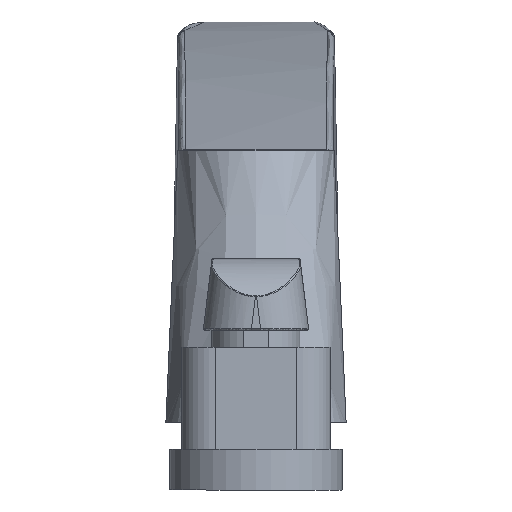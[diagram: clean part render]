
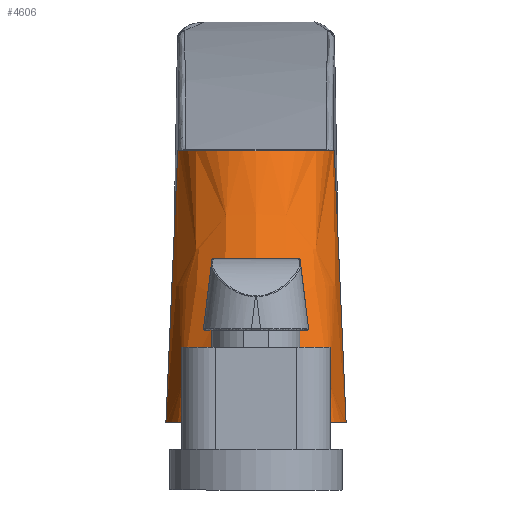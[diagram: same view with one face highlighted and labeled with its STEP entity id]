
A CAD part, left-side view. The second image highlights one B-rep face of the part: STEP entity #4606.
In plain terms, the highlighted free-form (B-spline) face has degree [1, 2] with [2, 5] control points.
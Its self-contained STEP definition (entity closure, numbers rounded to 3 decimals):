
#55=(
BOUNDED_SURFACE()
B_SPLINE_SURFACE(1,2,((#7395,#7396,#7397,#7398,#7399),(#7400,#7401,#7402,
#7403,#7404)),.UNSPECIFIED.,.F.,.F.,.F.)
B_SPLINE_SURFACE_WITH_KNOTS((2,2),(3,2,3),(-0.325,3.183),
(0.013,1.571,3.129),.UNSPECIFIED.)
GEOMETRIC_REPRESENTATION_ITEM()
RATIONAL_B_SPLINE_SURFACE(((1.,0.712,1.,0.712,1.),
(1.,0.712,1.,0.712,1.)))
REPRESENTATION_ITEM('')
SURFACE()
);
#468=FACE_OUTER_BOUND('',#757,.T.);
#757=EDGE_LOOP('',(#3355,#3356,#3357,#3358));
#1111=LINE('',#7383,#1477);
#1115=LINE('',#7394,#1481);
#1477=VECTOR('',#5637,42.174);
#1481=VECTOR('',#5651,42.174);
#1762=CIRCLE('',#4927,11.5);
#1763=CIRCLE('',#4929,13.25);
#2025=VERTEX_POINT('',#7380);
#2026=VERTEX_POINT('',#7382);
#2027=VERTEX_POINT('',#7386);
#2028=VERTEX_POINT('',#7390);
#2526=EDGE_CURVE('',#2026,#2025,#1111,.T.);
#2529=EDGE_CURVE('',#2025,#2027,#1762,.T.);
#2530=EDGE_CURVE('',#2028,#2026,#1763,.T.);
#2532=EDGE_CURVE('',#2027,#2028,#1115,.T.);
#3355=ORIENTED_EDGE('',*,*,#2530,.T.);
#3356=ORIENTED_EDGE('',*,*,#2526,.T.);
#3357=ORIENTED_EDGE('',*,*,#2529,.T.);
#3358=ORIENTED_EDGE('',*,*,#2532,.T.);
#4606=ADVANCED_FACE('',(#468),#55,.F.);
#4927=AXIS2_PLACEMENT_3D('',#7388,#5642,#5643);
#4929=AXIS2_PLACEMENT_3D('',#7391,#5646,#5647);
#5637=DIRECTION('',(0.314,0.041,0.948));
#5642=DIRECTION('center_axis',(0.,0.,-1.));
#5643=DIRECTION('ref_axis',(0.,1.,0.));
#5646=DIRECTION('center_axis',(0.,0.,1.));
#5647=DIRECTION('ref_axis',(0.,1.,0.));
#5651=DIRECTION('',(-0.314,0.041,-0.948));
#7380=CARTESIAN_POINT('',(-49.75,-11.5,40.));
#7382=CARTESIAN_POINT('',(-63.,-13.25,0.));
#7383=CARTESIAN_POINT('',(-63.,-13.25,0.));
#7386=CARTESIAN_POINT('',(-49.75,11.5,40.));
#7388=CARTESIAN_POINT('Origin',(-49.75,0.,40.));
#7390=CARTESIAN_POINT('',(-63.,13.25,0.));
#7391=CARTESIAN_POINT('Origin',(-63.,0.,0.));
#7394=CARTESIAN_POINT('',(-49.75,11.5,40.));
#7395=CARTESIAN_POINT('Ctrl Pts',(-64.355,13.429,-4.09));
#7396=CARTESIAN_POINT('Ctrl Pts',(-76.302,13.256,-0.139));
#7397=CARTESIAN_POINT('Ctrl Pts',(-76.302,0.,
-0.139));
#7398=CARTESIAN_POINT('Ctrl Pts',(-76.302,-13.256,-0.139));
#7399=CARTESIAN_POINT('Ctrl Pts',(-64.355,-13.429,-4.09));
#7400=CARTESIAN_POINT('Ctrl Pts',(-49.75,11.5,40.));
#7401=CARTESIAN_POINT('Ctrl Pts',(-59.981,11.352,43.383));
#7402=CARTESIAN_POINT('Ctrl Pts',(-59.981,0.,
43.383));
#7403=CARTESIAN_POINT('Ctrl Pts',(-59.981,-11.352,43.383));
#7404=CARTESIAN_POINT('Ctrl Pts',(-49.75,-11.5,40.));
